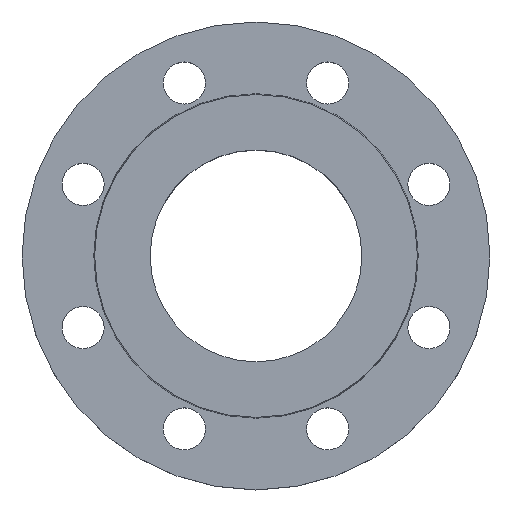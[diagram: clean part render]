
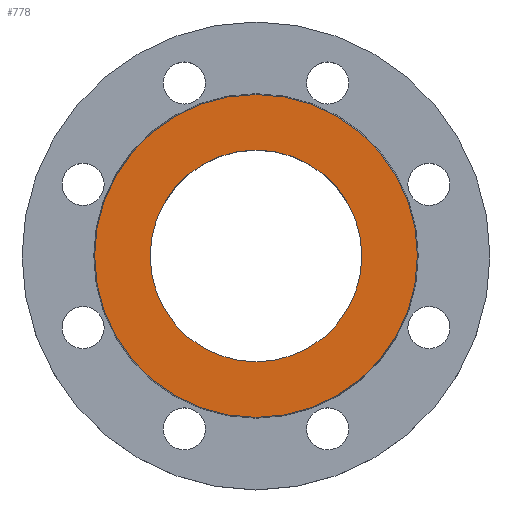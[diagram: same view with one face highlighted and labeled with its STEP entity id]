
A CAD part, top view. The second image highlights one B-rep face of the part: STEP entity #778.
In plain terms, the highlighted planar face has unit normal (0, 0, 1).
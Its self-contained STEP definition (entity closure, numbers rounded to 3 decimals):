
#18 = CIRCLE ( 'NONE', #540, 69. ) ;
#26 = AXIS2_PLACEMENT_3D ( 'NONE', #770, #787, #788 ) ;
#30 = AXIS2_PLACEMENT_3D ( 'NONE', #383, #381, #380 ) ;
#53 = EDGE_CURVE ( 'NONE', #878, #594, #94, .T. ) ;
#57 = EDGE_CURVE ( 'NONE', #633, #622, #18, .T. ) ;
#68 = CIRCLE ( 'NONE', #255, 69. ) ;
#75 = CIRCLE ( 'NONE', #30, 45.25 ) ;
#94 = CIRCLE ( 'NONE', #26, 45.25 ) ;
#145 = CARTESIAN_POINT ( 'NONE',  ( 45.25, 0., 0. ) ) ;
#208 = DIRECTION ( 'NONE',  ( 1., 0., 0. ) ) ;
#210 = DIRECTION ( 'NONE',  ( 0., 0., 1. ) ) ;
#211 = CARTESIAN_POINT ( 'NONE',  ( 0., 0., 0. ) ) ;
#212 = PLANE ( 'NONE',  #606 ) ;
#213 = FACE_OUTER_BOUND ( 'NONE', #618, .T. ) ;
#214 = FACE_BOUND ( 'NONE', #857, .T. ) ;
#255 = AXIS2_PLACEMENT_3D ( 'NONE', #459, #458, #457 ) ;
#301 = CARTESIAN_POINT ( 'NONE',  ( -69., 0., 0. ) ) ;
#311 = CARTESIAN_POINT ( 'NONE',  ( 69., 0., 0. ) ) ;
#334 = CARTESIAN_POINT ( 'NONE',  ( -45.25, 0., 0. ) ) ;
#380 = DIRECTION ( 'NONE',  ( 1., 0., 0. ) ) ;
#381 = DIRECTION ( 'NONE',  ( 0., 0., 1. ) ) ;
#383 = CARTESIAN_POINT ( 'NONE',  ( 0., 0., 0. ) ) ;
#403 = EDGE_CURVE ( 'NONE', #622, #633, #68, .T. ) ;
#457 = DIRECTION ( 'NONE',  ( -1., 0., 0. ) ) ;
#458 = DIRECTION ( 'NONE',  ( 0., 0., -1. ) ) ;
#459 = CARTESIAN_POINT ( 'NONE',  ( 0., 0., 0. ) ) ;
#536 = EDGE_CURVE ( 'NONE', #594, #878, #75, .T. ) ;
#540 = AXIS2_PLACEMENT_3D ( 'NONE', #792, #793, #794 ) ;
#594 = VERTEX_POINT ( 'NONE', #334 ) ;
#606 = AXIS2_PLACEMENT_3D ( 'NONE', #211, #210, #208 ) ;
#618 = EDGE_LOOP ( 'NONE', ( #965, #966 ) ) ;
#622 = VERTEX_POINT ( 'NONE', #311 ) ;
#633 = VERTEX_POINT ( 'NONE', #301 ) ;
#770 = CARTESIAN_POINT ( 'NONE',  ( 0., 0., 0. ) ) ;
#778 = ADVANCED_FACE ( 'NONE', ( #214, #213 ), #212, .T. ) ;
#787 = DIRECTION ( 'NONE',  ( 0., 0., 1. ) ) ;
#788 = DIRECTION ( 'NONE',  ( 1., 0., 0. ) ) ;
#792 = CARTESIAN_POINT ( 'NONE',  ( 0., 0., 0. ) ) ;
#793 = DIRECTION ( 'NONE',  ( 0., 0., -1. ) ) ;
#794 = DIRECTION ( 'NONE',  ( -1., 0., 0. ) ) ;
#857 = EDGE_LOOP ( 'NONE', ( #962, #963 ) ) ;
#878 = VERTEX_POINT ( 'NONE', #145 ) ;
#962 = ORIENTED_EDGE ( 'NONE', *, *, #53, .F. ) ;
#963 = ORIENTED_EDGE ( 'NONE', *, *, #536, .F. ) ;
#965 = ORIENTED_EDGE ( 'NONE', *, *, #57, .F. ) ;
#966 = ORIENTED_EDGE ( 'NONE', *, *, #403, .F. ) ;
